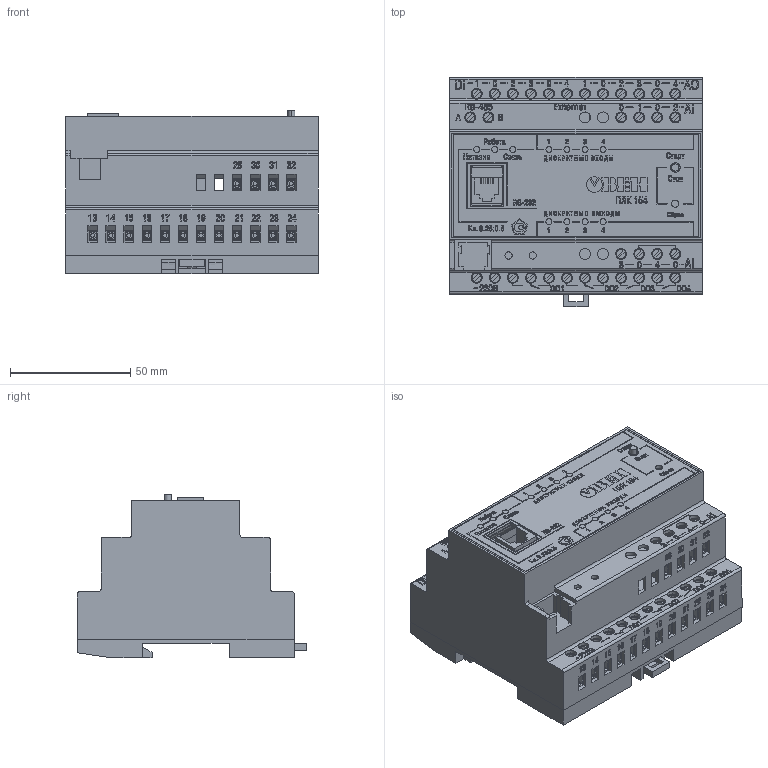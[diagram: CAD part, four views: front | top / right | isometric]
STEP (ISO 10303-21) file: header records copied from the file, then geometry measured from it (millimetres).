
FILE_DESCRIPTION (( 'STEP AP214' ), '1' );
FILE_NAME ('3D Ìîäåëü ÏËÊ154.STEP', '2016-01-18T10:38:39', ( '' ), ( '' ), 'SwSTEP 2.0', 'SolidWorks 2013', '' );
FILE_SCHEMA (( 'AUTOMOTIVE_DESIGN' ));
Length unit declared in the file: millimetre
Products named in the file (10): Êíîïêà Ñáðîñ; Êíîïêà Ñòàðò; Ïàíåëü ëèöåâàÿ ÏËÊ154; RS-232; Êëåììà_9,5õ9,8õ3,5ìì; Çàùåëêà(Ä); Ethernet; Êîðïóñ ÏËÊ154; ﾎ魵瑙韃 ﾏﾋﾊ150; 3D Ìîäåëü ÏËÊ154
Assembly tree (42 placements, depth 2):
  3D Ìîäåëü ÏËÊ154
    ﾎ魵瑙韃 ﾏﾋﾊ150
    Êîðïóñ ÏËÊ154
    Ethernet
    Çàùåëêà(Ä)
    Êëåììà_9,5õ9,8õ3,5ìì  x34
    RS-232
    Ïàíåëü ëèöåâàÿ ÏËÊ154
    Êíîïêà Ñòàðò
    Êíîïêà Ñáðîñ
Bounding box: 105 x 95.15 x 67.9 mm (x, y, z)
Volume: 132257.6 mm3; surface area: 117274.7 mm2
Topology: 178 solids, 178 shells, 5371 faces, 13832 edges, 9198 vertices
Faces by surface type: plane 3772, cylinder 807, bspline 792
Entity records: 199111 total; most frequent: CARTESIAN_POINT 76008, ORIENTED_EDGE 19876, DIRECTION 14640, EDGE_CURVE 9938, LINE 7556, VECTOR 7556, VERTEX_POINT 6624, EDGE_LOOP 4148
